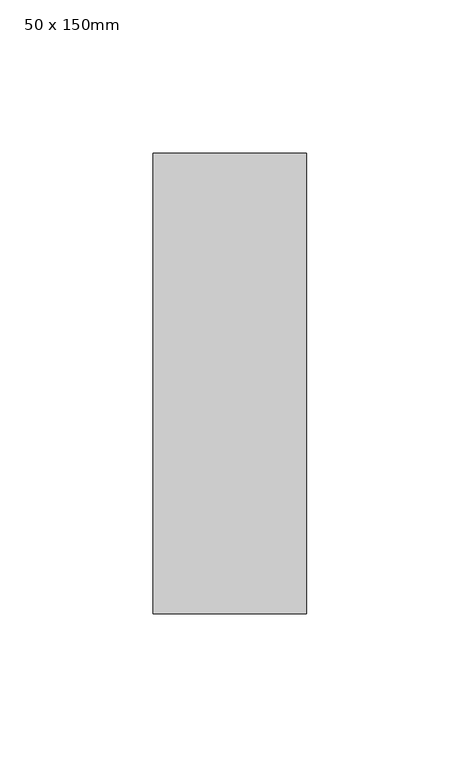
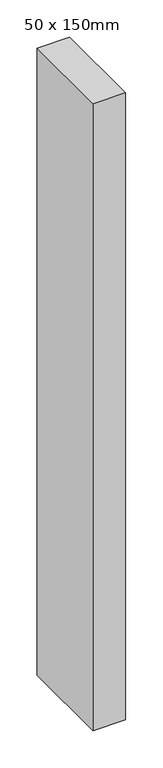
"""IFC4 building model written with IfcOpenShell, lengths in millimetres: member geometry, Прямоугольный импост : 50 x 150mm."""

from ifc_helpers import new_model, si_unit, frame, origin, place, context, project, spatial, polyline, outline, extrude, source, transform, mapped, element, save


def member_50_x_150mm_a65b6ca2(model_context):
    return source(origin(), model_context, "Body", "SweptSolid", [
        extrude(outline(polyline([(0.0, 75.0), (0.0, -75.0), (-50.0, -75.0), (-50.0, 75.0), (0.0, 75.0)])), frame((0.0, 0.0, -1025.0), z_axis=(0.0, 0.0, 1.0), x_axis=(1.0, 0.0, 0.0)), (0.0, 0.0, 1.0), 1025.0),
    ])


if __name__ == "__main__":
    model = new_model("IFC4")
    model_context = context("Model", 3, world=origin())
    ifc_project = project(units=[si_unit("LENGTHUNIT", "METRE", prefix="MILLI")], contexts=[model_context])
    site = spatial("IfcSite", under=ifc_project)
    building = spatial("IfcBuilding", under=site)
    placement = place(None, origin())
    member_50_x_150mm_shape = member_50_x_150mm_a65b6ca2(model_context)
    element("IfcMember", 1, ObjectType="Прямоугольный импост : 50 x 150mm", at=placement, inside=building, context=model_context, shape_type="MappedRepresentation", body=[
        mapped(member_50_x_150mm_shape, transform((0.0, 0.0, 0.0), x_axis=(1.0, 0.0, 0.0), y_axis=(0.0, 1.0, 0.0), z_axis=(0.0, 0.0, 1.0))),
    ])
    save(model, "model.ifc")
